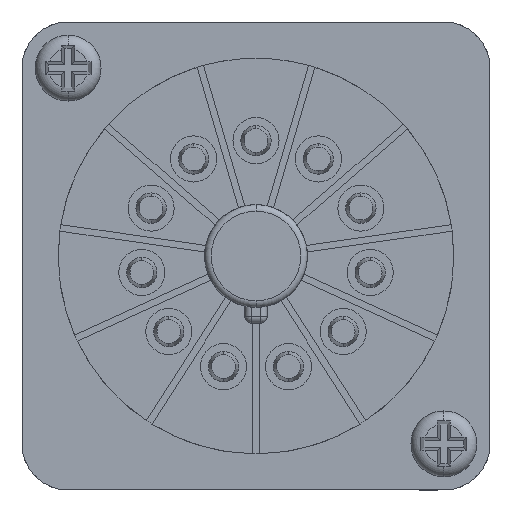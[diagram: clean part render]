
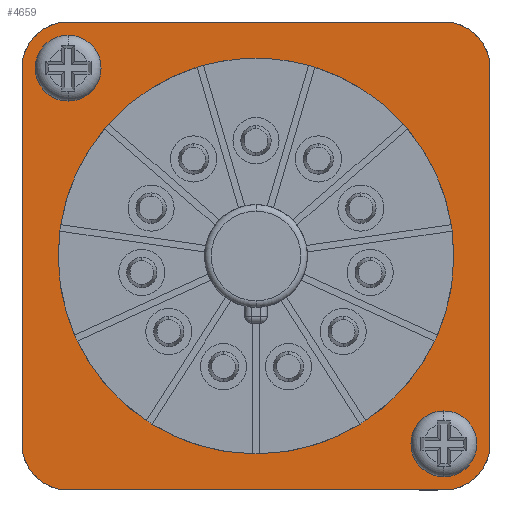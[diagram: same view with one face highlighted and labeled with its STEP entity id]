
A CAD part, front view. The second image highlights one B-rep face of the part: STEP entity #4659.
In plain terms, the highlighted planar face has unit normal (0, -1, 0).
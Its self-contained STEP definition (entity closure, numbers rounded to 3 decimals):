
#160 = CIRCLE ( 'NONE', #2542, 15. ) ;
#452 = CARTESIAN_POINT ( 'NONE',  ( 0., 0., 0. ) ) ;
#453 = DIRECTION ( 'NONE',  ( 0., -1., 0. ) ) ;
#454 = DIRECTION ( 'NONE',  ( 0., 0., -1. ) ) ;
#612 = CARTESIAN_POINT ( 'NONE',  ( -14.25, 0., 14.25 ) ) ;
#619 = DIRECTION ( 'NONE',  ( 0., -1., 0. ) ) ;
#620 = DIRECTION ( 'NONE',  ( 1., 0., 0. ) ) ;
#627 = CARTESIAN_POINT ( 'NONE',  ( 14.25, 0., -14.25 ) ) ;
#631 = DIRECTION ( 'NONE',  ( 0., -1., 0. ) ) ;
#632 = DIRECTION ( 'NONE',  ( -1., 0., 0. ) ) ;
#1111 = LINE ( 'NONE', #1112, #2312 ) ;
#1112 = CARTESIAN_POINT ( 'NONE',  ( 17.75, 0., 17.75 ) ) ;
#1113 = DIRECTION ( 'NONE',  ( 0., 0., -1. ) ) ;
#1120 = LINE ( 'NONE', #1121, #2316 ) ;
#1121 = CARTESIAN_POINT ( 'NONE',  ( -17.75, 0., -17.75 ) ) ;
#1122 = DIRECTION ( 'NONE',  ( -1., 0., 0. ) ) ;
#1129 = LINE ( 'NONE', #1130, #2320 ) ;
#1130 = CARTESIAN_POINT ( 'NONE',  ( -17.75, 0., 17.75 ) ) ;
#1131 = DIRECTION ( 'NONE',  ( 0., 0., 1. ) ) ;
#1138 = LINE ( 'NONE', #1139, #2325 ) ;
#1139 = CARTESIAN_POINT ( 'NONE',  ( -17.75, 0., 17.75 ) ) ;
#1140 = DIRECTION ( 'NONE',  ( 1., 0., 0. ) ) ;
#1717 = FACE_BOUND ( 'NONE', #6520, .T. ) ;
#1733 = FACE_BOUND ( 'NONE', #6524, .T. ) ;
#1790 = FACE_OUTER_BOUND ( 'NONE', #6518, .T. ) ;
#1808 = FACE_BOUND ( 'NONE', #6508, .T. ) ;
#1825 = AXIS2_PLACEMENT_3D ( 'NONE', #7109, #7110, #7111 ) ;
#1957 = AXIS2_PLACEMENT_3D ( 'NONE', #2594, #2595, #2596 ) ;
#2144 = EDGE_CURVE ( 'NONE', #5048, #5135, #4657, .T. ) ;
#2146 = EDGE_CURVE ( 'NONE', #5127, #5149, #4655, .T. ) ;
#2312 = VECTOR ( 'NONE', #1113, 1000. ) ;
#2316 = VECTOR ( 'NONE', #1122, 1000. ) ;
#2320 = VECTOR ( 'NONE', #1131, 1000. ) ;
#2325 = VECTOR ( 'NONE', #1140, 1000. ) ;
#2376 = AXIS2_PLACEMENT_3D ( 'NONE', #627, #631, #632 ) ;
#2393 = AXIS2_PLACEMENT_3D ( 'NONE', #612, #619, #620 ) ;
#2500 = AXIS2_PLACEMENT_3D ( 'NONE', #6898, #6899, #6900 ) ;
#2501 = AXIS2_PLACEMENT_3D ( 'NONE', #6901, #6902, #6903 ) ;
#2502 = AXIS2_PLACEMENT_3D ( 'NONE', #6895, #6896, #6897 ) ;
#2503 = AXIS2_PLACEMENT_3D ( 'NONE', #6904, #6905, #6906 ) ;
#2542 = AXIS2_PLACEMENT_3D ( 'NONE', #452, #453, #454 ) ;
#2571 = AXIS2_PLACEMENT_3D ( 'NONE', #6788, #6789, #6790 ) ;
#2574 = AXIS2_PLACEMENT_3D ( 'NONE', #6752, #6783, #6784 ) ;
#2593 = PLANE ( 'NONE',  #1957 ) ;
#2594 = CARTESIAN_POINT ( 'NONE',  ( 0., 0., 0. ) ) ;
#2595 = DIRECTION ( 'NONE',  ( 0., -1., 0. ) ) ;
#2596 = DIRECTION ( 'NONE',  ( 0., 0., -1. ) ) ;
#2676 = CARTESIAN_POINT ( 'NONE',  ( 0., 0., -15. ) ) ;
#2695 = CARTESIAN_POINT ( 'NONE',  ( -14.25, 0., 16.75 ) ) ;
#2700 = CARTESIAN_POINT ( 'NONE',  ( 0., 0., 15. ) ) ;
#2774 = CARTESIAN_POINT ( 'NONE',  ( 14.25, 0., -11.75 ) ) ;
#2782 = CARTESIAN_POINT ( 'NONE',  ( -14.25, 0., 11.75 ) ) ;
#2796 = CARTESIAN_POINT ( 'NONE',  ( 14.25, 0., -16.75 ) ) ;
#2903 = CARTESIAN_POINT ( 'NONE',  ( 14.25, 0., 17.75 ) ) ;
#2905 = CARTESIAN_POINT ( 'NONE',  ( -17.75, 0., -14.25 ) ) ;
#2906 = CARTESIAN_POINT ( 'NONE',  ( -17.75, 0., 14.25 ) ) ;
#2907 = CARTESIAN_POINT ( 'NONE',  ( -14.25, 0., 17.75 ) ) ;
#2912 = CARTESIAN_POINT ( 'NONE',  ( 17.75, 0., -14.25 ) ) ;
#2925 = CARTESIAN_POINT ( 'NONE',  ( 17.75, 0., 14.25 ) ) ;
#2930 = CARTESIAN_POINT ( 'NONE',  ( -14.25, 0., -17.75 ) ) ;
#2932 = CARTESIAN_POINT ( 'NONE',  ( 14.25, 0., -17.75 ) ) ;
#4257 = EDGE_CURVE ( 'NONE', #5548, #5586, #4643, .T. ) ;
#4258 = EDGE_CURVE ( 'NONE', #5588, #5565, #4646, .T. ) ;
#4259 = EDGE_CURVE ( 'NONE', #5554, #5549, #4645, .T. ) ;
#4260 = EDGE_CURVE ( 'NONE', #5580, #5535, #4642, .T. ) ;
#4325 = EDGE_CURVE ( 'NONE', #5053, #5029, #4627, .T. ) ;
#4627 = CIRCLE ( 'NONE', #1825, 15. ) ;
#4642 = CIRCLE ( 'NONE', #2503, 3.5 ) ;
#4643 = CIRCLE ( 'NONE', #2502, 3.5 ) ;
#4645 = CIRCLE ( 'NONE', #2501, 3.5 ) ;
#4646 = CIRCLE ( 'NONE', #2500, 3.5 ) ;
#4655 = CIRCLE ( 'NONE', #2571, 2.5 ) ;
#4657 = CIRCLE ( 'NONE', #2574, 2.5 ) ;
#4659 = ADVANCED_FACE ( 'NONE', ( #1790, #1808, #1733, #1717 ), #2593, .T. ) ;
#4693 = CIRCLE ( 'NONE', #2376, 2.5 ) ;
#4695 = CIRCLE ( 'NONE', #2393, 2.5 ) ;
#4711 = ORIENTED_EDGE ( 'NONE', *, *, #6149, .F. ) ;
#4712 = ORIENTED_EDGE ( 'NONE', *, *, #4257, .T. ) ;
#5029 = VERTEX_POINT ( 'NONE', #2676 ) ;
#5048 = VERTEX_POINT ( 'NONE', #2695 ) ;
#5053 = VERTEX_POINT ( 'NONE', #2700 ) ;
#5127 = VERTEX_POINT ( 'NONE', #2774 ) ;
#5135 = VERTEX_POINT ( 'NONE', #2782 ) ;
#5149 = VERTEX_POINT ( 'NONE', #2796 ) ;
#5516 = ORIENTED_EDGE ( 'NONE', *, *, #6146, .F. ) ;
#5535 = VERTEX_POINT ( 'NONE', #2903 ) ;
#5548 = VERTEX_POINT ( 'NONE', #2905 ) ;
#5549 = VERTEX_POINT ( 'NONE', #2906 ) ;
#5554 = VERTEX_POINT ( 'NONE', #2907 ) ;
#5561 = ORIENTED_EDGE ( 'NONE', *, *, #6155, .F. ) ;
#5565 = VERTEX_POINT ( 'NONE', #2912 ) ;
#5567 = ORIENTED_EDGE ( 'NONE', *, *, #4325, .F. ) ;
#5579 = ORIENTED_EDGE ( 'NONE', *, *, #2146, .F. ) ;
#5580 = VERTEX_POINT ( 'NONE', #2925 ) ;
#5584 = ORIENTED_EDGE ( 'NONE', *, *, #5984, .F. ) ;
#5586 = VERTEX_POINT ( 'NONE', #2930 ) ;
#5588 = VERTEX_POINT ( 'NONE', #2932 ) ;
#5590 = ORIENTED_EDGE ( 'NONE', *, *, #5934, .F. ) ;
#5592 = ORIENTED_EDGE ( 'NONE', *, *, #4260, .T. ) ;
#5593 = ORIENTED_EDGE ( 'NONE', *, *, #5988, .F. ) ;
#5603 = ORIENTED_EDGE ( 'NONE', *, *, #6152, .F. ) ;
#5605 = ORIENTED_EDGE ( 'NONE', *, *, #2144, .F. ) ;
#5606 = ORIENTED_EDGE ( 'NONE', *, *, #4258, .T. ) ;
#5608 = ORIENTED_EDGE ( 'NONE', *, *, #4259, .T. ) ;
#5934 = EDGE_CURVE ( 'NONE', #5029, #5053, #160, .T. ) ;
#5984 = EDGE_CURVE ( 'NONE', #5135, #5048, #4695, .T. ) ;
#5988 = EDGE_CURVE ( 'NONE', #5149, #5127, #4693, .T. ) ;
#6146 = EDGE_CURVE ( 'NONE', #5580, #5565, #1111, .T. ) ;
#6149 = EDGE_CURVE ( 'NONE', #5588, #5586, #1120, .T. ) ;
#6152 = EDGE_CURVE ( 'NONE', #5548, #5549, #1129, .T. ) ;
#6155 = EDGE_CURVE ( 'NONE', #5554, #5535, #1138, .T. ) ;
#6508 = EDGE_LOOP ( 'NONE', ( #5567, #5590 ) ) ;
#6518 = EDGE_LOOP ( 'NONE', ( #4712, #4711, #5606, #5516, #5592, #5561, #5608, #5603 ) ) ;
#6520 = EDGE_LOOP ( 'NONE', ( #5579, #5593 ) ) ;
#6524 = EDGE_LOOP ( 'NONE', ( #5605, #5584 ) ) ;
#6752 = CARTESIAN_POINT ( 'NONE',  ( -14.25, 0., 14.25 ) ) ;
#6783 = DIRECTION ( 'NONE',  ( 0., -1., 0. ) ) ;
#6784 = DIRECTION ( 'NONE',  ( 1., 0., 0. ) ) ;
#6788 = CARTESIAN_POINT ( 'NONE',  ( 14.25, 0., -14.25 ) ) ;
#6789 = DIRECTION ( 'NONE',  ( 0., -1., 0. ) ) ;
#6790 = DIRECTION ( 'NONE',  ( -1., 0., 0. ) ) ;
#6895 = CARTESIAN_POINT ( 'NONE',  ( -14.25, 0., -14.25 ) ) ;
#6896 = DIRECTION ( 'NONE',  ( 0., -1., 0. ) ) ;
#6897 = DIRECTION ( 'NONE',  ( 0., 0., -1. ) ) ;
#6898 = CARTESIAN_POINT ( 'NONE',  ( 14.25, 0., -14.25 ) ) ;
#6899 = DIRECTION ( 'NONE',  ( 0., -1., 0. ) ) ;
#6900 = DIRECTION ( 'NONE',  ( 0., 0., -1. ) ) ;
#6901 = CARTESIAN_POINT ( 'NONE',  ( -14.25, 0., 14.25 ) ) ;
#6902 = DIRECTION ( 'NONE',  ( 0., -1., 0. ) ) ;
#6903 = DIRECTION ( 'NONE',  ( 0., 0., -1. ) ) ;
#6904 = CARTESIAN_POINT ( 'NONE',  ( 14.25, 0., 14.25 ) ) ;
#6905 = DIRECTION ( 'NONE',  ( 0., -1., 0. ) ) ;
#6906 = DIRECTION ( 'NONE',  ( 0., 0., -1. ) ) ;
#7109 = CARTESIAN_POINT ( 'NONE',  ( 0., 0., 0. ) ) ;
#7110 = DIRECTION ( 'NONE',  ( 0., -1., 0. ) ) ;
#7111 = DIRECTION ( 'NONE',  ( 0., 0., -1. ) ) ;
